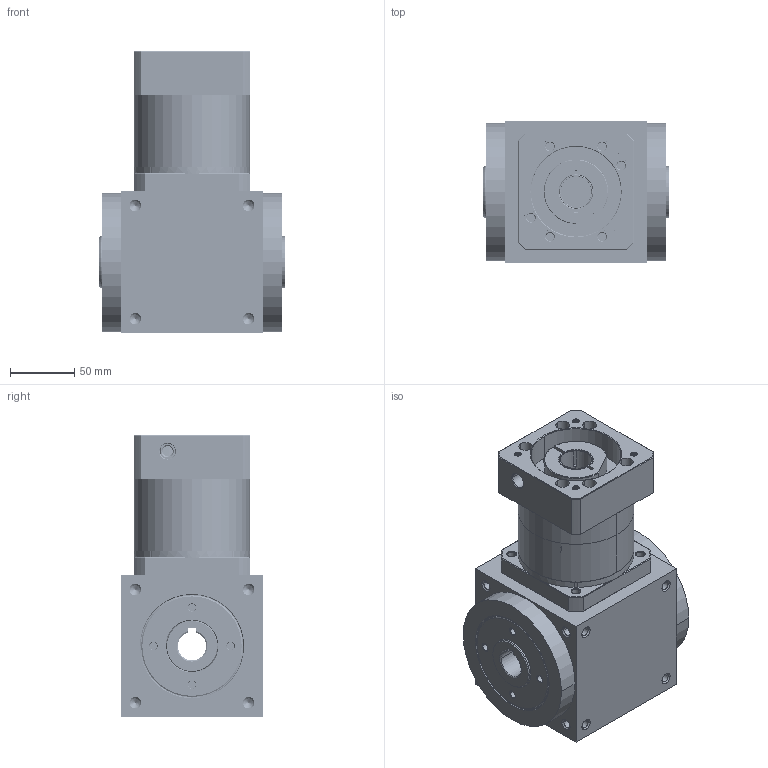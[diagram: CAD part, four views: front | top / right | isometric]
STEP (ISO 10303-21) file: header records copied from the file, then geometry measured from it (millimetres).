
FILE_DESCRIPTION (( 'STEP AP203' ), '1' );
FILE_NAME ('LAT110-LAB90-H-70-90-M6.STEP', '2025-01-15T06:53:34', ( '微软用户' ), ( '微软中国' ), 'SwSTEP 2.0', 'SolidWorks 2022', '' );
FILE_SCHEMA (( 'CONFIG_CONTROL_DESIGN' ));
Products named in the file (1): LAT110-LAB90-H-70-90-M6
Bounding box: 144 x 110 x 219 mm (x, y, z)
Volume: 1925943.4 mm3; surface area: 291983.6 mm2
Topology: 9 solids, 9 shells, 1891 faces, 4758 edges, 2882 vertices
Faces by surface type: cylinder 841, plane 592, cone 262, bspline 186, torus 10
Entity records: 117828 total; most frequent: CARTESIAN_POINT 77472, ORIENTED_EDGE 9436, DIRECTION 7482, EDGE_CURVE 4718, AXIS2_PLACEMENT_3D 3167, VERTEX_POINT 2882, EDGE_LOOP 2018, ADVANCED_FACE 1891
